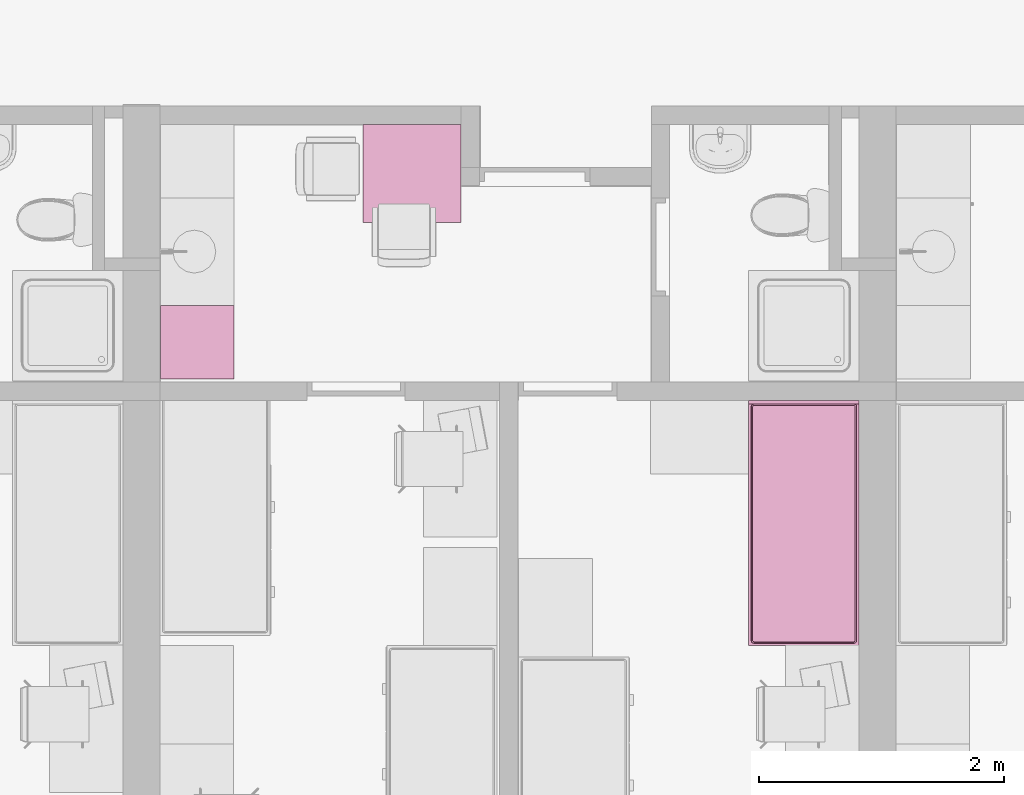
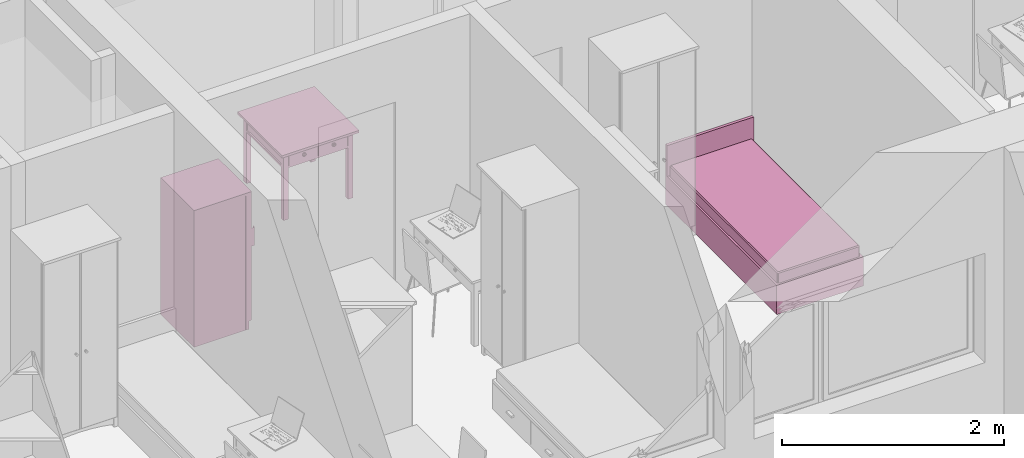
# One storey, part 87 of 165: 3 furnishings.
"""IFC2X3 building model written with IfcOpenShell, lengths in millimetres."""

import ifcopenshell
import ifcopenshell.guid

model = None  # the IFC model being written
_history = None  # IfcOwnerHistory: only IFC2X3 demands one
_inside = {}  # id of a spatial element -> (the spatial element, [elements in it])
_under = {}  # id of a project, library or spatial element -> (it, [spatial elements below it])
_declared = {}  # id of a project -> (the project, [libraries it declares])
_typed = {}  # id of a type object -> (the type object, [elements of that type])
_made_of = {}  # id of a material, layer set ... -> (it, [elements and type objects made of it])


def new_model(schema):
    """Start an empty IFC model of exactly this schema.

    Asked for "IFC4X3", IfcOpenShell would pick the latest addendum, in which some entities
    have other attributes; the version numbers below select the first issue.
    IFC2X3 requires an IfcOwnerHistory on every rooted entity: one is made here for all.
    """
    global model, _history
    if schema == "IFC4X3":
        model = ifcopenshell.file(schema_version=(4, 3, 0, 0))
    else:
        model = ifcopenshell.file(schema=schema)
    _inside.clear()
    _under.clear()
    _declared.clear()
    _typed.clear()
    _made_of.clear()
    _history = None
    if model.schema == "IFC2X3":
        org = make("IfcOrganization", Name="unknown")
        user = make(
            "IfcPersonAndOrganization",
            ThePerson=make("IfcPerson", FamilyName="unknown"),
            TheOrganization=org,
        )
        app = make(
            "IfcApplication",
            ApplicationDeveloper=org,
            Version="unknown",
            ApplicationFullName="unknown",
            ApplicationIdentifier="unknown",
        )
        _history = make(
            "IfcOwnerHistory",
            OwningUser=user,
            OwningApplication=app,
            ChangeAction="ADDED",
            CreationDate=0,
        )
    return model


def make(cls, **values):
    """One entity of the class cls with the attributes given. An attribute that is None is left unset."""
    return model.create_entity(
        cls, **{name: value for name, value in values.items() if value is not None}
    )


def entity(cls, *values):
    """Any entity or typed value of the class cls, its attributes in the order of the schema. None: left unset."""
    e = model.create_entity(cls)
    for i, value in enumerate(values):
        if value is not None:
            e[i] = value
    return e


def rooted(cls, **values):
    """An entity with a GlobalId (a new one), such as an element, a storey or a relation."""
    return make(cls, GlobalId=ifcopenshell.guid.new(), OwnerHistory=_history, **values)


def si_unit(unit_type, name, prefix=None):
    """IfcSIUnit, for example si_unit("LENGTHUNIT", "METRE", prefix="MILLI")."""
    return make("IfcSIUnit", UnitType=unit_type, Prefix=prefix, Name=name)


def converted_unit(unit_type, name, factor, base, dimensions=None, offset=None):
    """IfcConversionBasedUnit, such as the inch: factor (a typed value) times the base unit."""
    return make(
        "IfcConversionBasedUnit"
        if offset is None
        else "IfcConversionBasedUnitWithOffset",
        ConversionOffset=offset,
        Dimensions=None
        if dimensions is None
        else entity("IfcDimensionalExponents", *dimensions),
        UnitType=unit_type,
        Name=name,
        ConversionFactor=make(
            "IfcMeasureWithUnit", ValueComponent=factor, UnitComponent=base
        ),
    )


def money_unit(currency):
    """IfcMonetaryUnit."""
    return make("IfcMonetaryUnit", Currency=currency)


def assignment(units):
    """IfcUnitAssignment: the units of a project."""
    return None if units is None else make("IfcUnitAssignment", Units=units)


def point(xyz):
    """IfcCartesianPoint."""
    return None if xyz is None else make("IfcCartesianPoint", Coordinates=xyz)


def direction(xyz):
    """IfcDirection."""
    return None if xyz is None else make("IfcDirection", DirectionRatios=xyz)


def frame(location, z_axis=None, x_axis=None):
    """IfcAxis2Placement3D, a coordinate frame: its origin and axes. An axis left out is left unset."""
    return make(
        "IfcAxis2Placement3D",
        Location=point(location),
        Axis=direction(z_axis),
        RefDirection=direction(x_axis),
    )


def origin_with_axes():
    """The frame at (0, 0, 0) with the z axis (0, 0, 1) and the x axis (1, 0, 0) written out."""
    return frame((0.0, 0.0, 0.0), z_axis=(0.0, 0.0, 1.0), x_axis=(1.0, 0.0, 0.0))


def place(relative_to, where):
    """IfcLocalPlacement: puts the frame where relative to a parent placement (None: the world)."""
    return make(
        "IfcLocalPlacement", PlacementRelTo=relative_to, RelativePlacement=where
    )


def context(
    kind, dimensions, precision=None, world=None, true_north=None, identifier=None
):
    """IfcGeometricRepresentationContext, for example the 3D "Model" context."""
    return make(
        "IfcGeometricRepresentationContext",
        ContextIdentifier=identifier,
        ContextType=kind,
        CoordinateSpaceDimension=dimensions,
        Precision=precision,
        WorldCoordinateSystem=world,
        TrueNorth=true_north,
    )


def subcontext(parent, identifier, kind, view, scale=None):
    """IfcGeometricRepresentationSubContext, for example "Body" below "Model"."""
    return make(
        "IfcGeometricRepresentationSubContext",
        ContextIdentifier=identifier,
        ContextType=kind,
        ParentContext=parent,
        TargetScale=scale,
        TargetView=view,
    )


def project(units=None, contexts=None):
    """IfcProject with its units and contexts."""
    return rooted(
        "IfcProject",
        Name="project",
        RepresentationContexts=contexts,
        UnitsInContext=assignment(units),
    )


def spatial(cls, under=None, at=None, **own):
    """A site, building, storey or space (cls), placed at a placement, below another one or the project."""
    s = rooted(cls, ObjectPlacement=at, **own)
    if under is not None:
        _under.setdefault(under.id(), (under, []))[1].append(s)
    return s


def faces_of(points, faces, orient=None, outer=None):
    """IfcFace entities. A face is a list of loops; a loop is a list of indices into points, from 0.

    orient and outer hold one flag for each loop. By default every Orientation is true, the
    first loop of a face is its IfcFaceOuterBound and the others are IfcFaceBound.
    """
    made = []
    for i, loops in enumerate(faces):
        bounds = []
        for j, loop in enumerate(loops):
            is_outer = j == 0 if outer is None else outer[i][j]
            bounds.append(
                make(
                    "IfcFaceOuterBound" if is_outer else "IfcFaceBound",
                    Bound=make("IfcPolyLoop", Polygon=[points[k] for k in loop]),
                    Orientation=True if orient is None else orient[i][j],
                )
            )
        made.append(make("IfcFace", Bounds=bounds))
    return made


def open_shell(faces, orient=None, outer=None):
    """The faces of one IfcOpenShell. surface_model builds it on its shared points."""
    return ("IfcOpenShell", faces, orient, outer)


def faceted_brep(points, faces, orient=None, outer=None, voids=None):
    """IfcFacetedBrep: a solid bounded by flat faces; with voids (closed shells), ...WithVoids."""
    shared = [point(p) for p in points]
    hull = make("IfcClosedShell", CfsFaces=faces_of(shared, faces, orient, outer))
    if voids is None:
        return make("IfcFacetedBrep", Outer=hull)
    return make(
        "IfcFacetedBrepWithVoids",
        Outer=hull,
        Voids=[
            make(cls, CfsFaces=faces_of(shared, fs, o, b)) for cls, fs, o, b in voids
        ],
    )


def surface_model(cls, points, shells):
    """IfcFaceBasedSurfaceModel or IfcShellBasedSurfaceModel (cls): surfaces that need not close."""
    shared = [point(p) for p in points]
    made = [make(c, CfsFaces=faces_of(shared, fs, o, b)) for c, fs, o, b in shells]
    if cls == "IfcFaceBasedSurfaceModel":
        return make(cls, FbsmFaces=made)
    return make(cls, SbsmBoundary=made)


def shape(context_of_items, identifier, shape_type, items):
    """IfcShapeRepresentation: the items that make up one representation, for example the "Body"."""
    return make(
        "IfcShapeRepresentation",
        ContextOfItems=context_of_items,
        RepresentationIdentifier=identifier,
        RepresentationType=shape_type,
        Items=items,
    )


def source(mapping_origin, context_of_items, identifier, shape_type, items):
    """IfcRepresentationMap: a shape defined once, which mapped items show again and again."""
    return make(
        "IfcRepresentationMap",
        MappingOrigin=mapping_origin,
        MappedRepresentation=shape(context_of_items, identifier, shape_type, items),
    )


def transform(
    local_origin,
    x_axis=None,
    y_axis=None,
    z_axis=None,
    scale=None,
    scale2=None,
    scale3=None,
    uniform=True,
):
    """IfcCartesianTransformationOperator3D, or its non-uniform kind. x_axis, y_axis, z_axis: its Axis1, 2, 3."""
    if uniform:
        return make(
            "IfcCartesianTransformationOperator3D",
            Axis1=direction(x_axis),
            Axis2=direction(y_axis),
            LocalOrigin=point(local_origin),
            Scale=scale,
            Axis3=direction(z_axis),
        )
    return make(
        "IfcCartesianTransformationOperator3DnonUniform",
        Axis1=direction(x_axis),
        Axis2=direction(y_axis),
        LocalOrigin=point(local_origin),
        Scale=scale,
        Axis3=direction(z_axis),
        Scale2=scale2,
        Scale3=scale3,
    )


def mapped(mapping_source, mapping_target):
    """IfcMappedItem: shows the shape of a source again, moved by a transform."""
    return make(
        "IfcMappedItem", MappingSource=mapping_source, MappingTarget=mapping_target
    )


def material(Name=None, Category=None):
    """IfcMaterial."""
    return make("IfcMaterial", Name=Name, Category=Category)


def material_list(materials):
    """IfcMaterialList."""
    return make("IfcMaterialList", Materials=materials)


def made_of(thing, what):
    """Note that an element or type object is made of a material, layer set ...; save() writes the relation."""
    if what is not None:
        _made_of.setdefault(what.id(), (what, []))[1].append(thing)
    return thing


def type_object(cls, material=None, **own):
    """A type object (cls), such as IfcWallType, which elements share."""
    return made_of(rooted(cls, **own), material)


def element(
    cls,
    number,
    at=None,
    inside=None,
    cuts=None,
    type_object=None,
    material=None,
    context=None,
    identifier="Body",
    shape_type=None,
    held_by="IfcProductDefinitionShape",
    body=None,
    shapes=None,
    **own,
):
    """One element of the class cls, such as IfcWall. Its Tag is "e" and its number.

    at: its placement. inside: the storey or other place that contains it. cuts: it is an
    opening in that element (IfcRelVoidsElement). A single representation is given by context,
    identifier, shape_type and body (its items); several are given by shapes. held_by: the class
    of the entity that holds the representations. save() writes the other relations.
    """
    e = rooted(cls, Tag="e%d" % number, ObjectPlacement=at, **own)
    if body is not None:
        shapes = [shape(context, identifier, shape_type, body)]
    if shapes is not None:
        e.Representation = make(held_by, Representations=shapes)
    if inside is not None:
        _inside.setdefault(inside.id(), (inside, []))[1].append(e)
    if cuts is not None:
        rooted(
            "IfcRelVoidsElement", RelatingBuildingElement=cuts, RelatedOpeningElement=e
        )
    if type_object is not None:
        _typed.setdefault(type_object.id(), (type_object, []))[1].append(e)
    return made_of(e, material)


def aggregate(whole, parts):
    """IfcRelAggregates: a whole, such as a stair, and the parts it consists of."""
    return rooted("IfcRelAggregates", RelatingObject=whole, RelatedObjects=parts)


def save(model, path):
    """Write the relations noted so far, then the file.

    IfcRelAggregates (storeys below a building ...), IfcRelContainedInSpatialStructure (elements
    in a storey), IfcRelDefinesByType, IfcRelAssociatesMaterial and IfcRelDeclares: one each for
    every whole, place, type object, material and project.
    """
    for whole, parts in _under.values():
        aggregate(whole, parts)
    for where, things in _inside.values():
        rooted(
            "IfcRelContainedInSpatialStructure",
            RelatedElements=things,
            RelatingStructure=where,
        )
    for kind, things in _typed.values():
        rooted("IfcRelDefinesByType", RelatedObjects=things, RelatingType=kind)
    for what, things in _made_of.values():
        rooted("IfcRelAssociatesMaterial", RelatedObjects=things, RelatingMaterial=what)
    for by, libraries in _declared.values():
        rooted("IfcRelDeclares", RelatingContext=by, RelatedDefinitions=libraries)
    model.write(path)


model = new_model("IFC2X3")

# Units and contexts
model_context = context("Model", 3, precision=1e-05, world=origin_with_axes(), true_north=direction((0.0, 1.0)))
body_context = subcontext(model_context, "Body", "Model", "MODEL_VIEW")
ifc_project = project(units=[si_unit("LENGTHUNIT", "METRE", prefix="MILLI"), si_unit("AREAUNIT", "SQUARE_METRE"), si_unit("VOLUMEUNIT", "CUBIC_METRE"), converted_unit("PLANEANGLEUNIT", "DEGREE", entity("IfcPlaneAngleMeasure", 0.0174532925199), si_unit("PLANEANGLEUNIT", "RADIAN"), dimensions=[0, 0, 0, 0, 0, 0, 0]), si_unit("SOLIDANGLEUNIT", "STERADIAN"), money_unit("USD"), converted_unit("TIMEUNIT", "Year", entity("IfcTimeMeasure", 31556926.0), si_unit("TIMEUNIT", "SECOND"), dimensions=[0, 0, 0, 0, 0, 0, 0]), si_unit("MASSUNIT", "GRAM"), si_unit("THERMODYNAMICTEMPERATUREUNIT", "DEGREE_CELSIUS"), si_unit("LUMINOUSINTENSITYUNIT", "LUMEN")], contexts=[model_context])

# Site, building, storey
site_placement = place(None, origin_with_axes())
site = spatial("IfcSite", under=ifc_project, at=site_placement, Name="Site", CompositionType="ELEMENT")
building_placement = place(site_placement, origin_with_axes())
building = spatial("IfcBuilding", under=site, at=building_placement, Name="Building", CompositionType="ELEMENT")
storey_placement = place(building_placement, frame((0.0, 0.0, 6300.0), z_axis=(0.0, 0.0, 1.0), x_axis=(1.0, 0.0, 0.0)))
storey = spatial("IfcBuildingStorey", under=building, at=storey_placement, Name="4KORRUS", CompositionType="ELEMENT", Elevation=6300.0)

# Furnishings
ifc_material = material(Name="Background")
ifc_material_list = material_list([ifc_material])
furnishing_element_type_1 = type_object("IfcFurnishingElementType", Name="Bed 19")
shared_shape_1 = source(origin_with_axes(), body_context, "Body", "Brep", [
    faceted_brep([(900.0, 1970.0, 0.0), (0.0, 1970.0, 0.0), (0.0, 2000.0, 0.0), (900.0, 2000.0, 0.0), (900.0, 1970.0, 660.0), (0.0, 1970.0, 660.0), (0.0, 2000.0, 660.0), (900.0, 2000.0, 660.0)], [[[0, 1, 2, 3]], [[1, 0, 4, 5]], [[2, 1, 5, 6]], [[3, 2, 6, 7]], [[0, 3, 7, 4]], [[5, 4, 7, 6]]]),
    faceted_brep([(900.0, 0.0, 0.0), (0.0, 0.0, 0.0), (0.0, 1970.0, 0.0), (900.0, 1970.0, 0.0), (900.0, 0.0, 320.0), (0.0, 0.0, 320.0), (0.0, 1970.0, 320.0), (900.0, 1970.0, 320.0)], [[[0, 1, 2, 3]], [[1, 0, 4, 5]], [[2, 1, 5, 6]], [[3, 2, 6, 7]], [[0, 3, 7, 4]], [[5, 4, 7, 6]]]),
    faceted_brep([(905.0, 10.0, 30.0), (900.0, 10.0, 30.0), (900.0, 695.0, 30.0), (905.0, 695.0, 30.0), (905.0, 10.0, 290.0), (900.0, 10.0, 290.0), (900.0, 695.0, 290.0), (905.0, 695.0, 290.0)], [[[0, 1, 2, 3]], [[1, 0, 4, 5]], [[2, 1, 5, 6]], [[3, 2, 6, 7]], [[0, 3, 7, 4]], [[5, 4, 7, 6]]]),
    faceted_brep([(935.0, 307.5, 150.0), (905.0, 307.5, 150.0), (905.0, 397.5, 150.0), (935.0, 397.5, 150.0), (935.0, 307.5, 170.0), (905.0, 307.5, 170.0), (905.0, 397.5, 170.0), (935.0, 397.5, 170.0)], [[[0, 1, 2, 3]], [[1, 0, 4, 5]], [[2, 1, 5, 6]], [[3, 2, 6, 7]], [[0, 3, 7, 4]], [[5, 4, 7, 6]]]),
    faceted_brep([(905.0, 705.0, 30.0), (900.0, 705.0, 30.0), (900.0, 1390.0, 30.0), (905.0, 1390.0, 30.0), (905.0, 705.0, 290.0), (900.0, 705.0, 290.0), (900.0, 1390.0, 290.0), (905.0, 1390.0, 290.0)], [[[0, 1, 2, 3]], [[1, 0, 4, 5]], [[2, 1, 5, 6]], [[3, 2, 6, 7]], [[0, 3, 7, 4]], [[5, 4, 7, 6]]]),
    faceted_brep([(935.0, 1002.5, 150.0), (905.0, 1002.5, 150.0), (905.0, 1092.5, 150.0), (935.0, 1092.5, 150.0), (935.0, 1002.5, 170.0), (905.0, 1002.5, 170.0), (905.0, 1092.5, 170.0), (935.0, 1092.5, 170.0)], [[[0, 1, 2, 3]], [[1, 0, 4, 5]], [[2, 1, 5, 6]], [[3, 2, 6, 7]], [[0, 3, 7, 4]], [[5, 4, 7, 6]]]),
    faceted_brep([(20.0, 40.0, 350.0), (20.0, 1950.0, 350.0), (21.522, 1957.654, 350.0), (25.858, 1964.142, 350.0), (32.346, 1968.478, 350.0), (40.0, 1970.0, 350.0), (860.0, 1970.0, 350.0), (867.654, 1968.478, 350.0), (874.142, 1964.142, 350.0), (878.478, 1957.654, 350.0), (880.0, 1950.0, 350.0), (880.0, 40.0, 350.0), (878.478, 32.346, 350.0), (874.142, 25.858, 350.0), (867.654, 21.522, 350.0), (860.0, 20.0, 350.0), (40.0, 20.0, 350.0), (32.346, 21.522, 350.0), (25.858, 25.858, 350.0), (21.522, 32.346, 350.0), (20.0, 40.0, 420.0), (20.0, 1950.0, 420.0), (21.522, 1957.654, 420.0), (25.858, 1964.142, 420.0), (32.346, 1968.478, 420.0), (40.0, 1970.0, 420.0), (860.0, 1970.0, 420.0), (867.654, 1968.478, 420.0), (874.142, 1964.142, 420.0), (878.478, 1957.654, 420.0), (880.0, 1950.0, 420.0), (880.0, 40.0, 420.0), (878.478, 32.346, 420.0), (874.142, 25.858, 420.0), (867.654, 21.522, 420.0), (860.0, 20.0, 420.0), (40.0, 20.0, 420.0), (32.346, 21.522, 420.0), (25.858, 25.858, 420.0), (21.522, 32.346, 420.0), (21.522, 40.15, 427.654), (21.522, 1949.85, 427.654), (22.956, 1957.06, 427.654), (26.955, 1963.045, 427.654), (32.94, 1967.044, 427.654), (40.15, 1968.478, 427.654), (859.85, 1968.478, 427.654), (867.06, 1967.044, 427.654), (873.045, 1963.045, 427.654), (877.044, 1957.06, 427.654), (878.478, 1949.85, 427.654), (878.478, 40.15, 427.654), (877.044, 32.94, 427.654), (873.045, 26.955, 427.654), (867.06, 22.956, 427.654), (859.85, 21.522, 427.654), (40.15, 21.522, 427.654), (32.94, 22.956, 427.654), (26.955, 26.955, 427.654), (22.956, 32.94, 427.654), (32.346, 41.216, 438.478), (32.346, 1948.784, 438.478), (33.152, 1952.836, 438.478), (34.759, 1955.241, 438.478), (37.164, 1956.848, 438.478), (41.216, 1957.654, 438.478), (858.784, 1957.654, 438.478), (862.836, 1956.848, 438.478), (865.241, 1955.241, 438.478), (866.848, 1952.836, 438.478), (867.654, 1948.784, 438.478), (867.654, 41.216, 438.478), (866.848, 37.164, 438.478), (865.241, 34.759, 438.478), (862.836, 33.152, 438.478), (858.784, 32.346, 438.478), (41.216, 32.346, 438.478), (37.164, 33.152, 438.478), (34.759, 34.759, 438.478), (33.152, 37.164, 438.478), (40.0, 41.97, 440.0), (40.0, 1948.03, 440.0), (40.327, 1949.673, 440.0), (40.0, 1950.0, 439.924), (41.97, 1950.0, 440.0), (858.03, 1950.0, 440.0), (859.673, 1949.673, 440.0), (860.0, 1950.0, 439.924), (860.0, 1948.03, 440.0), (860.0, 41.97, 440.0), (859.673, 40.327, 440.0), (860.0, 40.0, 439.924), (858.03, 40.0, 440.0), (41.97, 40.0, 440.0), (40.327, 40.327, 440.0), (40.0, 40.0, 439.924)], [[[0, 1, 2, 3, 4, 5, 6, 7, 8, 9, 10, 11, 12, 13, 14, 15, 16, 17, 18, 19]], [[1, 0, 20, 21]], [[2, 1, 21, 22]], [[3, 2, 22, 23]], [[4, 3, 23, 24]], [[5, 4, 24, 25]], [[6, 5, 25, 26]], [[7, 6, 26, 27]], [[8, 7, 27, 28]], [[9, 8, 28, 29]], [[10, 9, 29, 30]], [[11, 10, 30, 31]], [[12, 11, 31, 32]], [[13, 12, 32, 33]], [[14, 13, 33, 34]], [[15, 14, 34, 35]], [[16, 15, 35, 36]], [[17, 16, 36, 37]], [[18, 17, 37, 38]], [[19, 18, 38, 39]], [[0, 19, 39, 20]], [[21, 20, 40, 41]], [[22, 21, 41, 42]], [[23, 22, 42, 43]], [[24, 23, 43, 44]], [[25, 24, 44, 45]], [[26, 25, 45, 46]], [[27, 26, 46, 47]], [[28, 27, 47, 48]], [[29, 28, 48, 49]], [[30, 29, 49, 50]], [[31, 30, 50, 51]], [[32, 31, 51, 52]], [[33, 32, 52, 53]], [[34, 33, 53, 54]], [[35, 34, 54, 55]], [[36, 35, 55, 56]], [[37, 36, 56, 57]], [[38, 37, 57, 58]], [[39, 38, 58, 59]], [[20, 39, 59, 40]], [[41, 40, 60, 61]], [[42, 41, 61, 62]], [[43, 42, 62, 63]], [[44, 43, 63, 64]], [[45, 44, 64, 65]], [[46, 45, 65, 66]], [[47, 46, 66, 67]], [[48, 47, 67, 68]], [[49, 48, 68, 69]], [[50, 49, 69, 70]], [[51, 50, 70, 71]], [[52, 51, 71, 72]], [[53, 52, 72, 73]], [[54, 53, 73, 74]], [[55, 54, 74, 75]], [[56, 55, 75, 76]], [[57, 56, 76, 77]], [[58, 57, 77, 78]], [[59, 58, 78, 79]], [[40, 59, 79, 60]], [[61, 60, 80, 81]], [[62, 61, 81, 82, 83]], [[63, 62, 83]], [[64, 63, 83]], [[65, 64, 83, 82, 84]], [[66, 65, 84, 85]], [[67, 66, 85, 86, 87]], [[68, 67, 87]], [[69, 68, 87]], [[70, 69, 87, 86, 88]], [[71, 70, 88, 89]], [[72, 71, 89, 90, 91]], [[73, 72, 91]], [[74, 73, 91]], [[75, 74, 91, 90, 92]], [[76, 75, 92, 93]], [[77, 76, 93, 94, 95]], [[78, 77, 95]], [[79, 78, 95]], [[60, 79, 95, 94, 80]], [[81, 80, 94, 93, 92, 90, 89, 88, 86, 85, 84, 82]]]),
    faceted_brep([(20.0, 40.0, 350.0), (21.522, 32.346, 350.0), (25.858, 25.858, 350.0), (32.346, 21.522, 350.0), (40.0, 20.0, 350.0), (860.0, 20.0, 350.0), (867.654, 21.522, 350.0), (874.142, 25.858, 350.0), (878.478, 32.346, 350.0), (880.0, 40.0, 350.0), (880.0, 1950.0, 350.0), (878.478, 1957.654, 350.0), (874.142, 1964.142, 350.0), (867.654, 1968.478, 350.0), (860.0, 1970.0, 350.0), (40.0, 1970.0, 350.0), (32.346, 1968.478, 350.0), (25.858, 1964.142, 350.0), (21.522, 1957.654, 350.0), (20.0, 1950.0, 350.0), (20.0, 40.0, 320.0), (21.522, 32.346, 320.0), (25.858, 25.858, 320.0), (32.346, 21.522, 320.0), (40.0, 20.0, 320.0), (860.0, 20.0, 320.0), (867.654, 21.522, 320.0), (874.142, 25.858, 320.0), (878.478, 32.346, 320.0), (880.0, 40.0, 320.0), (880.0, 1950.0, 320.0), (878.478, 1957.654, 320.0), (874.142, 1964.142, 320.0), (867.654, 1968.478, 320.0), (860.0, 1970.0, 320.0), (40.0, 1970.0, 320.0), (32.346, 1968.478, 320.0), (25.858, 1964.142, 320.0), (21.522, 1957.654, 320.0), (20.0, 1950.0, 320.0)], [[[0, 1, 2, 3, 4, 5, 6, 7, 8, 9, 10, 11, 12, 13, 14, 15, 16, 17, 18, 19]], [[0, 20, 21, 1]], [[1, 21, 22, 2]], [[2, 22, 23, 3]], [[3, 23, 24, 4]], [[4, 24, 25, 5]], [[5, 25, 26, 6]], [[6, 26, 27, 7]], [[7, 27, 28, 8]], [[8, 28, 29, 9]], [[9, 29, 30, 10]], [[10, 30, 31, 11]], [[11, 31, 32, 12]], [[12, 32, 33, 13]], [[13, 33, 34, 14]], [[14, 34, 35, 15]], [[15, 35, 36, 16]], [[16, 36, 37, 17]], [[17, 37, 38, 18]], [[18, 38, 39, 19]], [[19, 39, 20, 0]], [[20, 39, 38, 37, 36, 35, 34, 33, 32, 31, 30, 29, 28, 27, 26, 25, 24, 23, 22, 21]]]),
])
furnishing_1_placement = place(storey_placement, frame((-25190.2967033, -17439.2398994, 0.0), z_axis=(0.0, 0.0, 1.0), x_axis=(1.0, 0.0, 0.0)))
element("IfcFurnishingElement", 1, at=furnishing_1_placement, inside=storey, type_object=furnishing_element_type_1, material=ifc_material_list, Name="FU - 013", context=body_context, shape_type="MappedRepresentation", body=[
    mapped(shared_shape_1, transform((0.0, 0.0, 0.0))),
])
furnishing_element_type_2 = type_object("IfcFurnishingElementType", Name="Rectangular Table 01 19")
shared_shape_2 = source(origin_with_axes(), body_context, "Body", "Brep", [
    faceted_brep([(90.0, 40.0, 0.0), (40.0, 40.0, 0.0), (40.0, 90.0, 0.0), (90.0, 90.0, 0.0), (90.0, 40.0, 725.0), (40.0, 40.0, 725.0), (40.0, 90.0, 725.0), (90.0, 90.0, 725.0)], [[[0, 1, 2, 3]], [[1, 0, 4, 5]], [[2, 1, 5, 6]], [[3, 2, 6, 7]], [[0, 3, 7, 4]], [[5, 4, 7, 6]]]),
    faceted_brep([(760.0, 40.0, 0.0), (710.0, 40.0, 0.0), (710.0, 90.0, 0.0), (760.0, 90.0, 0.0), (760.0, 40.0, 725.0), (710.0, 40.0, 725.0), (710.0, 90.0, 725.0), (760.0, 90.0, 725.0)], [[[0, 1, 2, 3]], [[1, 0, 4, 5]], [[2, 1, 5, 6]], [[3, 2, 6, 7]], [[0, 3, 7, 4]], [[5, 4, 7, 6]]]),
    faceted_brep([(90.0, 710.0, 0.0), (40.0, 710.0, 0.0), (40.0, 760.0, 0.0), (90.0, 760.0, 0.0), (90.0, 710.0, 725.0), (40.0, 710.0, 725.0), (40.0, 760.0, 725.0), (90.0, 760.0, 725.0)], [[[0, 1, 2, 3]], [[1, 0, 4, 5]], [[2, 1, 5, 6]], [[3, 2, 6, 7]], [[0, 3, 7, 4]], [[5, 4, 7, 6]]]),
    faceted_brep([(760.0, 710.0, 0.0), (710.0, 710.0, 0.0), (710.0, 760.0, 0.0), (760.0, 760.0, 0.0), (760.0, 710.0, 725.0), (710.0, 710.0, 725.0), (710.0, 760.0, 725.0), (760.0, 760.0, 725.0)], [[[0, 1, 2, 3]], [[1, 0, 4, 5]], [[2, 1, 5, 6]], [[3, 2, 6, 7]], [[0, 3, 7, 4]], [[5, 4, 7, 6]]]),
    faceted_brep([(760.0, 40.0, 565.0), (40.0, 40.0, 565.0), (40.0, 760.0, 565.0), (760.0, 760.0, 565.0), (760.0, 40.0, 585.0), (40.0, 40.0, 585.0), (40.0, 760.0, 585.0), (760.0, 760.0, 585.0)], [[[0, 1, 2, 3]], [[1, 0, 4, 5]], [[2, 1, 5, 6]], [[3, 2, 6, 7]], [[0, 3, 7, 4]], [[5, 4, 7, 6]]]),
    faceted_brep([(710.0, 52.5, 585.0), (90.0, 52.5, 585.0), (90.0, 77.5, 585.0), (710.0, 77.5, 585.0), (710.0, 52.5, 745.0), (90.0, 52.5, 745.0), (90.0, 77.5, 745.0), (710.0, 77.5, 745.0)], [[[0, 1, 2, 3]], [[1, 0, 4, 5]], [[2, 1, 5, 6]], [[3, 2, 6, 7]], [[0, 3, 7, 4]], [[5, 4, 7, 6]]]),
    faceted_brep([(77.5, 90.0, 585.0), (52.5, 90.0, 585.0), (52.5, 710.0, 585.0), (77.5, 710.0, 585.0), (77.5, 90.0, 745.0), (52.5, 90.0, 745.0), (52.5, 710.0, 745.0), (77.5, 710.0, 745.0)], [[[0, 1, 2, 3]], [[1, 0, 4, 5]], [[2, 1, 5, 6]], [[3, 2, 6, 7]], [[0, 3, 7, 4]], [[5, 4, 7, 6]]]),
    faceted_brep([(90.0, 747.5, 585.0), (710.0, 747.5, 585.0), (710.0, 722.5, 585.0), (90.0, 722.5, 585.0), (90.0, 747.5, 745.0), (710.0, 747.5, 745.0), (710.0, 722.5, 745.0), (90.0, 722.5, 745.0)], [[[0, 1, 2, 3]], [[1, 0, 4, 5]], [[2, 1, 5, 6]], [[3, 2, 6, 7]], [[0, 3, 7, 4]], [[5, 4, 7, 6]]]),
    faceted_brep([(722.5, 710.0, 585.0), (747.5, 710.0, 585.0), (747.5, 90.0, 585.0), (722.5, 90.0, 585.0), (722.5, 710.0, 745.0), (747.5, 710.0, 745.0), (747.5, 90.0, 745.0), (722.5, 90.0, 745.0)], [[[0, 1, 2, 3]], [[1, 0, 4, 5]], [[2, 1, 5, 6]], [[3, 2, 6, 7]], [[0, 3, 7, 4]], [[5, 4, 7, 6]]]),
    faceted_brep([(397.5, 40.0, 585.0), (95.0, 40.0, 585.0), (95.0, 60.0, 585.0), (397.5, 60.0, 585.0), (397.5, 40.0, 745.0), (95.0, 40.0, 745.0), (95.0, 60.0, 745.0), (397.5, 60.0, 745.0)], [[[0, 1, 2, 3]], [[1, 0, 4, 5]], [[2, 1, 5, 6]], [[3, 2, 6, 7]], [[0, 3, 7, 4]], [[5, 4, 7, 6]]]),
    faceted_brep([(705.0, 40.0, 585.0), (402.5, 40.0, 585.0), (402.5, 60.0, 585.0), (705.0, 60.0, 585.0), (705.0, 40.0, 745.0), (402.5, 40.0, 745.0), (402.5, 60.0, 745.0), (705.0, 60.0, 745.0)], [[[0, 1, 2, 3]], [[1, 0, 4, 5]], [[2, 1, 5, 6]], [[3, 2, 6, 7]], [[0, 3, 7, 4]], [[5, 4, 7, 6]]]),
    faceted_brep([(254.91, 40.0, 660.0), (251.25, 40.0, 656.34), (246.25, 40.0, 655.0), (241.25, 40.0, 656.34), (237.59, 40.0, 660.0), (236.25, 40.0, 665.0), (237.59, 40.0, 670.0), (241.25, 40.0, 673.66), (246.25, 40.0, 675.0), (251.25, 40.0, 673.66), (254.91, 40.0, 670.0), (256.25, 40.0, 665.0), (254.91, 25.0, 660.0), (251.25, 25.0, 656.34), (246.25, 25.0, 655.0), (241.25, 25.0, 656.34), (237.59, 25.0, 660.0), (236.25, 25.0, 665.0), (237.59, 25.0, 670.0), (241.25, 25.0, 673.66), (246.25, 25.0, 675.0), (251.25, 25.0, 673.66), (254.91, 25.0, 670.0), (256.25, 25.0, 665.0)], [[[0, 1, 2, 3, 4, 5, 6, 7, 8, 9, 10, 11]], [[1, 0, 12, 13]], [[2, 1, 13, 14]], [[3, 2, 14, 15]], [[4, 3, 15, 16]], [[5, 4, 16, 17]], [[6, 5, 17, 18]], [[7, 6, 18, 19]], [[8, 7, 19, 20]], [[9, 8, 20, 21]], [[10, 9, 21, 22]], [[11, 10, 22, 23]], [[0, 11, 23, 12]], [[12, 23, 22, 21, 20, 19, 18, 17, 16, 15, 14, 13]]]),
    faceted_brep([(256.25, 12.01, 665.0), (246.25, 10.0, 665.0), (254.91, 12.01, 660.0), (254.91, 12.01, 670.0), (251.25, 12.01, 656.34), (263.571, 17.5, 665.0), (261.25, 17.5, 656.34), (251.25, 12.01, 673.66), (261.25, 17.5, 673.66), (246.25, 12.01, 655.0), (254.91, 17.5, 650.0), (266.25, 25.0, 665.0), (263.571, 25.0, 655.0), (246.25, 12.01, 675.0), (254.91, 17.5, 680.0), (263.571, 25.0, 675.0), (241.25, 12.01, 656.34), (246.25, 17.5, 647.679), (256.25, 25.0, 647.679), (246.25, 25.0, 645.0), (236.25, 25.0, 647.679), (228.929, 25.0, 655.0), (226.25, 25.0, 665.0), (228.929, 25.0, 675.0), (236.25, 25.0, 682.321), (246.25, 25.0, 685.0), (256.25, 25.0, 682.321), (241.25, 12.01, 673.66), (246.25, 17.5, 682.321), (237.59, 12.01, 660.0), (237.59, 17.5, 650.0), (231.25, 17.5, 656.34), (228.929, 17.5, 665.0), (231.25, 17.5, 673.66), (237.59, 17.5, 680.0), (237.59, 12.01, 670.0), (236.25, 12.01, 665.0)], [[[0, 1, 2]], [[3, 1, 0]], [[2, 1, 4]], [[5, 0, 2, 6]], [[7, 1, 3]], [[8, 3, 0, 5]], [[4, 1, 9]], [[6, 2, 4, 10]], [[11, 5, 6, 12]], [[13, 1, 7]], [[14, 7, 3, 8]], [[15, 8, 5, 11]], [[9, 1, 16]], [[10, 4, 9, 17]], [[12, 6, 10, 18]], [[12, 18, 19, 20, 21, 22, 23, 24, 25, 26, 15, 11]], [[27, 1, 13]], [[28, 13, 7, 14]], [[26, 14, 8, 15]], [[16, 1, 29]], [[17, 9, 16, 30]], [[18, 10, 17, 19]], [[19, 17, 30, 20]], [[20, 30, 31, 21]], [[21, 31, 32, 22]], [[22, 32, 33, 23]], [[23, 33, 34, 24]], [[24, 34, 28, 25]], [[25, 28, 14, 26]], [[35, 1, 27]], [[34, 27, 13, 28]], [[29, 1, 36]], [[30, 16, 29, 31]], [[31, 29, 36, 32]], [[32, 36, 35, 33]], [[33, 35, 27, 34]], [[36, 1, 35]]]),
    faceted_brep([(562.41, 40.0, 660.0), (558.75, 40.0, 656.34), (553.75, 40.0, 655.0), (548.75, 40.0, 656.34), (545.09, 40.0, 660.0), (543.75, 40.0, 665.0), (545.09, 40.0, 670.0), (548.75, 40.0, 673.66), (553.75, 40.0, 675.0), (558.75, 40.0, 673.66), (562.41, 40.0, 670.0), (563.75, 40.0, 665.0), (562.41, 25.0, 660.0), (558.75, 25.0, 656.34), (553.75, 25.0, 655.0), (548.75, 25.0, 656.34), (545.09, 25.0, 660.0), (543.75, 25.0, 665.0), (545.09, 25.0, 670.0), (548.75, 25.0, 673.66), (553.75, 25.0, 675.0), (558.75, 25.0, 673.66), (562.41, 25.0, 670.0), (563.75, 25.0, 665.0)], [[[0, 1, 2, 3, 4, 5, 6, 7, 8, 9, 10, 11]], [[1, 0, 12, 13]], [[2, 1, 13, 14]], [[3, 2, 14, 15]], [[4, 3, 15, 16]], [[5, 4, 16, 17]], [[6, 5, 17, 18]], [[7, 6, 18, 19]], [[8, 7, 19, 20]], [[9, 8, 20, 21]], [[10, 9, 21, 22]], [[11, 10, 22, 23]], [[0, 11, 23, 12]], [[12, 23, 22, 21, 20, 19, 18, 17, 16, 15, 14, 13]]]),
    faceted_brep([(563.75, 12.01, 665.0), (553.75, 10.0, 665.0), (562.41, 12.01, 660.0), (562.41, 12.01, 670.0), (558.75, 12.01, 656.34), (571.071, 17.5, 665.0), (568.75, 17.5, 656.34), (558.75, 12.01, 673.66), (568.75, 17.5, 673.66), (553.75, 12.01, 655.0), (562.41, 17.5, 650.0), (573.75, 25.0, 665.0), (571.071, 25.0, 655.0), (553.75, 12.01, 675.0), (562.41, 17.5, 680.0), (571.071, 25.0, 675.0), (548.75, 12.01, 656.34), (553.75, 17.5, 647.679), (563.75, 25.0, 647.679), (553.75, 25.0, 645.0), (543.75, 25.0, 647.679), (536.429, 25.0, 655.0), (533.75, 25.0, 665.0), (536.429, 25.0, 675.0), (543.75, 25.0, 682.321), (553.75, 25.0, 685.0), (563.75, 25.0, 682.321), (548.75, 12.01, 673.66), (553.75, 17.5, 682.321), (545.09, 12.01, 660.0), (545.09, 17.5, 650.0), (538.75, 17.5, 656.34), (536.429, 17.5, 665.0), (538.75, 17.5, 673.66), (545.09, 17.5, 680.0), (545.09, 12.01, 670.0), (543.75, 12.01, 665.0)], [[[0, 1, 2]], [[3, 1, 0]], [[2, 1, 4]], [[5, 0, 2, 6]], [[7, 1, 3]], [[8, 3, 0, 5]], [[4, 1, 9]], [[6, 2, 4, 10]], [[11, 5, 6, 12]], [[13, 1, 7]], [[14, 7, 3, 8]], [[15, 8, 5, 11]], [[9, 1, 16]], [[10, 4, 9, 17]], [[12, 6, 10, 18]], [[12, 18, 19, 20, 21, 22, 23, 24, 25, 26, 15, 11]], [[27, 1, 13]], [[28, 13, 7, 14]], [[26, 14, 8, 15]], [[16, 1, 29]], [[17, 9, 16, 30]], [[18, 10, 17, 19]], [[19, 17, 30, 20]], [[20, 30, 31, 21]], [[21, 31, 32, 22]], [[22, 32, 33, 23]], [[23, 33, 34, 24]], [[24, 34, 28, 25]], [[25, 28, 14, 26]], [[35, 1, 27]], [[34, 27, 13, 28]], [[29, 1, 36]], [[30, 16, 29, 31]], [[31, 29, 36, 32]], [[32, 36, 35, 33]], [[33, 35, 27, 34]], [[36, 1, 35]]]),
    faceted_brep([(800.0, 0.0, 725.0), (0.0, 0.0, 725.0), (0.0, 800.0, 725.0), (800.0, 800.0, 725.0), (800.0, 0.0, 750.0), (0.0, 0.0, 750.0), (0.0, 800.0, 750.0), (800.0, 800.0, 750.0)], [[[0, 1, 2, 3]], [[1, 0, 4, 5]], [[2, 1, 5, 6]], [[3, 2, 6, 7]], [[0, 3, 7, 4]], [[5, 4, 7, 6]]]),
])
furnishing_2_placement = place(storey_placement, frame((-28333.8623684, -13989.2398994, 0.0), z_axis=(0.0, 0.0, 1.0), x_axis=(1.0, 0.0, 0.0)))
element("IfcFurnishingElement", 2, at=furnishing_2_placement, inside=storey, type_object=furnishing_element_type_2, material=ifc_material_list, Name="FU - 011", context=body_context, shape_type="MappedRepresentation", body=[
    mapped(shared_shape_2, transform((0.0, 0.0, 0.0))),
])
furnishing_element_type_3 = type_object("IfcFurnishingElementType", Name="Refrigerator 19")
shared_shape_3 = source(origin_with_axes(), body_context, "Body", "SurfaceModel", [
    faceted_brep([(0.0, 0.0, 1475.0), (0.0, 0.0, 1500.0), (-600.0, 0.0, 1500.0), (-600.0, 0.0, 1475.0), (0.0, 600.0, 1475.0), (0.0, 600.0, 1500.0), (-600.0, 600.0, 1500.0), (-600.0, 600.0, 1475.0)], [[[0, 1, 2, 3]], [[4, 5, 1, 0]], [[1, 5, 6, 2]], [[3, 2, 6, 7]], [[0, 3, 7, 4]], [[7, 6, 5, 4]]]),
    faceted_brep([(0.0, 65.0, 0.0), (0.0, 65.0, 1475.0), (-600.0, 65.0, 1475.0), (-600.0, 65.0, 0.0), (0.0, 600.0, 0.0), (0.0, 600.0, 1475.0), (-600.0, 600.0, 1475.0), (-600.0, 600.0, 0.0)], [[[0, 1, 2, 3]], [[4, 5, 1, 0]], [[1, 5, 6, 2]], [[3, 2, 6, 7]], [[0, 3, 7, 4]], [[7, 6, 5, 4]]]),
    faceted_brep([(0.0, 30.0, 0.0), (0.0, 30.0, 90.0), (-600.0, 30.0, 90.0), (-600.0, 30.0, 0.0), (0.0, 60.0, 0.0), (0.0, 60.0, 90.0), (-600.0, 60.0, 90.0), (-600.0, 60.0, 0.0)], [[[0, 1, 2, 3]], [[4, 5, 1, 0]], [[1, 5, 6, 2]], [[3, 2, 6, 7]], [[0, 3, 7, 4]], [[7, 6, 5, 4]]]),
    faceted_brep([(0.0, 60.0, 90.0), (0.0, 0.0, 90.0), (-600.0, 0.0, 90.0), (-600.0, 60.0, 90.0), (0.0, 60.0, 1474.5), (0.0, 0.0, 1474.5), (-600.0, 0.0, 1474.5), (-600.0, 60.0, 1474.5)], [[[0, 1, 2, 3]], [[4, 5, 1, 0]], [[1, 5, 6, 2]], [[3, 2, 6, 7]], [[0, 3, 7, 4]], [[7, 6, 5, 4]]]),
    surface_model("IfcShellBasedSurfaceModel", [(-600.0, -30.0, 900.0), (-600.0, 0.0, 900.0), (-600.0, 0.0, 1100.0), (-600.0, -30.0, 1100.0)], [open_shell([[[0, 1, 2, 3]]])]),
    surface_model("IfcShellBasedSurfaceModel", [(-600.0, -30.0, 900.0), (-570.0, -30.0, 900.0), (-570.0, -30.0, 1100.0), (-600.0, -30.0, 1100.0)], [open_shell([[[0, 1, 2, 3]]])]),
])
furnishing_3_placement = place(storey_placement, frame((-29384.008308, -14664.7705299, 0.0), z_axis=(0.0, 0.0, 1.0), x_axis=(0.0, 1.0, 0.0)))
element("IfcFurnishingElement", 3, at=furnishing_3_placement, inside=storey, type_object=furnishing_element_type_3, material=ifc_material_list, Name="FU - 007", context=body_context, shape_type="MappedRepresentation", body=[
    mapped(shared_shape_3, transform((0.0, 0.0, 0.0))),
])

save(model, "model.ifc")
